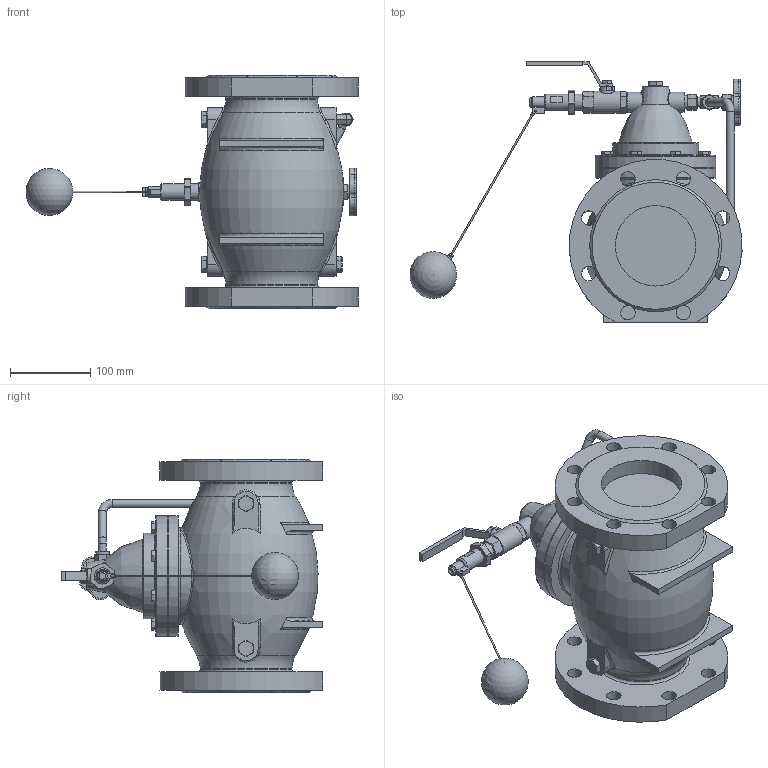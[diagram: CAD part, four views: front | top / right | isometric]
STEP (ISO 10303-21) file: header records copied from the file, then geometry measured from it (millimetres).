
FILE_DESCRIPTION(('STEP AP214'), '1');
FILE_NAME('PVF8-1331RR-F Ðåãóëÿòîð ïèëîòíîãî òèïà ïîïëàâêîâûé DN.ru Äó100 Ðó16', '', ('UNSPECIFIED'), ('UNSPECIFIED'), 'C3D Converter', 'C3D Toolkit', '');
FILE_SCHEMA(('AUTOMOTIVE_DESIGN { 1 0 10303 214 3 1 1}'));
Length unit declared in the file: millimetre
Products named in the file (1): PVF8-1331RR-F
Bounding box: 412.64 x 324.43 x 290 mm (x, y, z)
Volume: 7077657.6 mm3; surface area: 446486.6 mm2
Topology: 1 solids, 1 shells, 813 faces, 1978 edges, 1228 vertices
Faces by surface type: plane 445, cylinder 142, cone 122, torus 44, bspline 30, extrusion 29, sphere 1
Full cylindrical faces by diameter (mm): 2 x3, 4 x1, 6 x1, 7.734 x1, 8 x9, 9 x8, 10 x3, 12 x1, 12.573 x3, 13 x8, 14.254 x3, 14.287 x1, 16 x1, 16.967 x3, 18 x19, 18.047 x1, 20 x2, 23.884 x1, 25 x2, 27.496 x1, 64.636 x1, 100 x2, 106.882 x1, 114 x2, 120 x1, 150 x2
Entity records: 37227 total; most frequent: CARTESIAN_POINT 17820, ORIENTED_EDGE 3706, DIRECTION 3613, EDGE_CURVE 1853, AXIS2_PLACEMENT_3D 1414, VERTEX_POINT 1217, EDGE_LOOP 1026, FACE_BOUND 883
